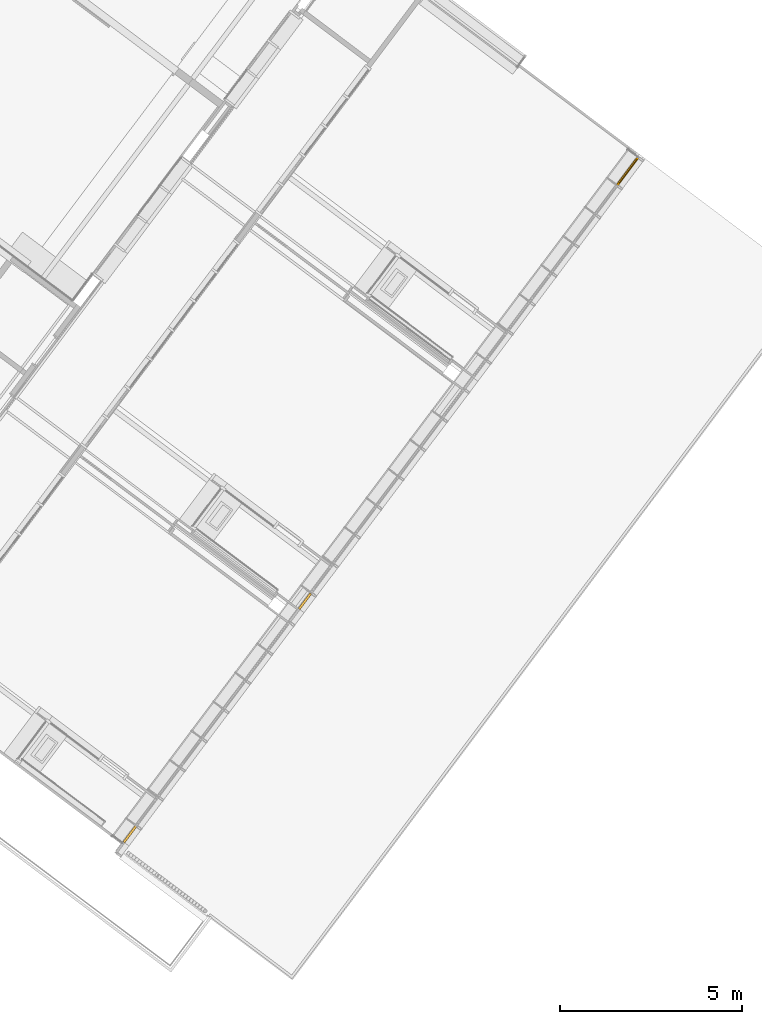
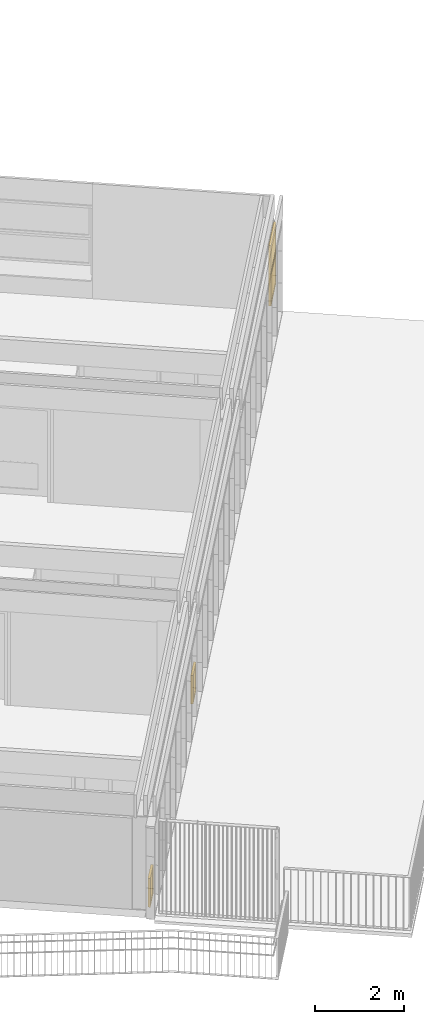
# One storey, part 241 of 243: 4 windows, 1 element without a shape of its own.
"""IFC2X3 building model written with IfcOpenShell, lengths in metres."""

from ifc_helpers import new_model, entity, si_unit, converted_unit, derived_unit, direction, frame, origin, place, context, subcontext, project, spatial, faceted_brep, source, transform, mapped, material, material_list, type_object, type_shapes, element, aggregate, save


model = new_model("IFC2X3")

# Units and contexts
model_context = context("Model", 3, precision=1e-05, world=origin(), true_north=direction((6.123031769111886e-17, 1.0)))
body_context = subcontext(model_context, "Body", "Model", "MODEL_VIEW")
ifc_project = project(units=[si_unit("LENGTHUNIT", "METRE"), si_unit("AREAUNIT", "SQUARE_METRE"), si_unit("VOLUMEUNIT", "CUBIC_METRE"), converted_unit("PLANEANGLEUNIT", "DEGREE", entity("IfcRatioMeasure", 0.017453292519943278), si_unit("PLANEANGLEUNIT", "RADIAN"), dimensions=[0, 0, 0, 0, 0, 0, 0]), si_unit("MASSUNIT", "GRAM", prefix="KILO"), derived_unit("MASSDENSITYUNIT", [(si_unit("MASSUNIT", "GRAM", prefix="KILO"), 1), (si_unit("LENGTHUNIT", "METRE"), -3)]), derived_unit("IONCONCENTRATIONUNIT", [(si_unit("MASSUNIT", "GRAM", prefix="KILO"), 1), (si_unit("LENGTHUNIT", "METRE"), -3)]), derived_unit("MOMENTOFINERTIAUNIT", [(si_unit("LENGTHUNIT", "METRE"), 4)]), si_unit("TIMEUNIT", "SECOND"), si_unit("FREQUENCYUNIT", "HERTZ"), si_unit("THERMODYNAMICTEMPERATUREUNIT", "DEGREE_CELSIUS"), derived_unit("THERMALTRANSMITTANCEUNIT", [(si_unit("MASSUNIT", "GRAM", prefix="KILO"), 1), (si_unit("THERMODYNAMICTEMPERATUREUNIT", "KELVIN"), -1), (si_unit("TIMEUNIT", "SECOND"), -3)]), derived_unit("THERMALCONDUCTANCEUNIT", [(si_unit("MASSUNIT", "GRAM", prefix="KILO"), 1), (si_unit("THERMODYNAMICTEMPERATUREUNIT", "KELVIN"), -1), (si_unit("TIMEUNIT", "SECOND"), -3), (si_unit("LENGTHUNIT", "METRE"), 1)]), derived_unit("VOLUMETRICFLOWRATEUNIT", [(si_unit("LENGTHUNIT", "METRE"), 3), (si_unit("TIMEUNIT", "SECOND"), -1)]), derived_unit("MASSFLOWRATEUNIT", [(si_unit("MASSUNIT", "GRAM", prefix="KILO"), 1), (si_unit("TIMEUNIT", "SECOND"), -1)]), derived_unit("ROTATIONALFREQUENCYUNIT", [(si_unit("TIMEUNIT", "SECOND"), -1)]), si_unit("ELECTRICCURRENTUNIT", "AMPERE"), si_unit("ELECTRICVOLTAGEUNIT", "VOLT"), si_unit("POWERUNIT", "WATT"), si_unit("FORCEUNIT", "NEWTON", prefix="KILO"), si_unit("ILLUMINANCEUNIT", "LUX"), si_unit("LUMINOUSFLUXUNIT", "LUMEN"), si_unit("LUMINOUSINTENSITYUNIT", "CANDELA"), derived_unit("USERDEFINED", [(si_unit("MASSUNIT", "GRAM", prefix="KILO"), -1), (si_unit("LENGTHUNIT", "METRE"), -2), (si_unit("TIMEUNIT", "SECOND"), 3), (si_unit("LUMINOUSFLUXUNIT", "LUMEN"), 1)]), derived_unit("USERDEFINED", [(si_unit("MASSUNIT", "GRAM", prefix="KILO"), 1), (si_unit("TIMEUNIT", "SECOND"), -3), (si_unit("LENGTHUNIT", "METRE"), 3), (si_unit("ELECTRICCURRENTUNIT", "AMPERE"), -2)]), derived_unit("SOUNDPOWERUNIT", [(si_unit("MASSUNIT", "GRAM", prefix="KILO"), 1), (si_unit("TIMEUNIT", "SECOND"), -3), (si_unit("LENGTHUNIT", "METRE"), 2)]), derived_unit("SOUNDPRESSUREUNIT", [(si_unit("MASSUNIT", "GRAM", prefix="KILO"), 1), (si_unit("LENGTHUNIT", "METRE"), -1), (si_unit("TIMEUNIT", "SECOND"), -2)]), derived_unit("LINEARVELOCITYUNIT", [(si_unit("LENGTHUNIT", "METRE"), 1), (si_unit("TIMEUNIT", "SECOND"), -1)]), si_unit("PRESSUREUNIT", "PASCAL"), derived_unit("USERDEFINED", [(si_unit("MASSUNIT", "GRAM", prefix="KILO"), 1), (si_unit("LENGTHUNIT", "METRE"), -2), (si_unit("TIMEUNIT", "SECOND"), -2)]), derived_unit("LINEARFORCEUNIT", [(si_unit("MASSUNIT", "GRAM", prefix="KILO"), 1), (si_unit("TIMEUNIT", "SECOND"), -2)]), derived_unit("PLANARFORCEUNIT", [(si_unit("MASSUNIT", "GRAM", prefix="KILO"), 1), (si_unit("LENGTHUNIT", "METRE"), -1), (si_unit("TIMEUNIT", "SECOND"), -2)]), derived_unit("SPECIFICHEATCAPACITYUNIT", [(si_unit("THERMODYNAMICTEMPERATUREUNIT", "KELVIN"), -1), (si_unit("LENGTHUNIT", "METRE"), 2), (si_unit("TIMEUNIT", "SECOND"), -2)]), derived_unit("HEATINGVALUEUNIT", [(si_unit("LENGTHUNIT", "METRE"), 2), (si_unit("TIMEUNIT", "SECOND"), -2)]), derived_unit("VAPORPERMEABILITYUNIT", [(si_unit("LENGTHUNIT", "METRE"), -1), (si_unit("TIMEUNIT", "SECOND"), 1)]), derived_unit("DYNAMICVISCOSITYUNIT", [(si_unit("MASSUNIT", "GRAM", prefix="KILO"), 1), (si_unit("TIMEUNIT", "SECOND"), -1), (si_unit("LENGTHUNIT", "METRE"), -1)]), derived_unit("THERMALEXPANSIONCOEFFICIENTUNIT", [(si_unit("THERMODYNAMICTEMPERATUREUNIT", "KELVIN"), -1)]), derived_unit("MODULUSOFELASTICITYUNIT", [(si_unit("MASSUNIT", "GRAM", prefix="KILO"), 1), (si_unit("LENGTHUNIT", "METRE"), -1), (si_unit("TIMEUNIT", "SECOND"), -2)]), derived_unit("ISOTHERMALMOISTURECAPACITYUNIT", [(si_unit("LENGTHUNIT", "METRE"), 3), (si_unit("MASSUNIT", "GRAM", prefix="KILO"), -1)]), derived_unit("MOISTUREDIFFUSIVITYUNIT", [(si_unit("TIMEUNIT", "SECOND"), -1), (si_unit("LENGTHUNIT", "METRE"), 2)])], contexts=[model_context])

# Site, building, storey
site_placement = place(None, frame((0.0, 0.0, 235.0), z_axis=(0.0, 0.0, 1.0), x_axis=(-0.7996477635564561, 0.6004693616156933, 0.0)))
site = spatial("IfcSite", under=ifc_project, at=site_placement, Name="Default", CompositionType="ELEMENT")
building_placement = place(site_placement, origin())
building = spatial("IfcBuilding", under=site, at=building_placement, CompositionType="ELEMENT")
storey_placement = place(building_placement, origin())
storey = spatial("IfcBuildingStorey", under=building, at=storey_placement, Name="P0- Escola", CompositionType="ELEMENT", Elevation=0.0)

# Curtain wall, windows
curtain_wall_type = type_object("IfcCurtainWallType", Name="Muro cortina:MC- EXT- MC2", PredefinedType="NOTDEFINED")
curtain_wall_placement = place(storey_placement, origin())
curtain_wall = element("IfcCurtainWall", 1, at=curtain_wall_placement, inside=storey, type_object=curtain_wall_type, Name="Muro cortina:MC- EXT- MC2", ObjectType="Muro cortina:MC- EXT- MC2")
ifc_material_1 = material(Name="_Vidre")
ifc_material_2 = material(Name="_Alumini- T1- Perfil")
ifc_material_list = material_list([ifc_material_1, ifc_material_2])
window_style_1 = type_object("IfcWindowStyle", Name="MC- Alu- Conjunt vidre fix- 62x60 cm:MC- Alu- Conjunt vidre fix- 62x60 cm", ConstructionType="NOTDEFINED", OperationType="NOTDEFINED", ParameterTakesPrecedence=False, Sizeable=False, material=ifc_material_list)
shared_shape_1 = source(origin(), body_context, "Body", "Brep", [
    faceted_brep([(0.22536055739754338, -0.007600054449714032, 0.048806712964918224), (0.22536055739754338, -0.03160022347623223, 0.048806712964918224), (-0.2253605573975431, -0.03160022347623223, 0.048806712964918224), (-0.2253605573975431, -0.007600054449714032, 0.048806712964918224), (0.22536055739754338, -0.007600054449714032, 0.7386999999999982), (-0.2253605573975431, -0.007600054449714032, 0.7386999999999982), (-0.2253605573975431, -0.03160022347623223, 0.7386999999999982), (0.22536055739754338, -0.03160022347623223, 0.7386999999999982)], [[[0, 1, 2, 3]], [[4, 0, 3, 5]], [[5, 3, 2, 6]], [[6, 2, 1, 7]], [[7, 1, 0, 4]], [[4, 5, 6, 7]]]),
    faceted_brep([(0.27416727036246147, -0.05999999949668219, 0.7876999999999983), (0.27416727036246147, -0.05999999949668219, 0.0), (0.27416727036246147, 0.0, 0.0), (0.27416727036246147, 0.0, 0.7876999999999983), (-0.27416727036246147, 0.0, 0.7876999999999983), (-0.27416727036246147, 0.0, 0.0), (0.21136045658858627, 0.0, 0.7248931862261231), (-0.21136045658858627, 0.0, 0.724893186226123), (-0.21136045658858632, 0.0, 0.06280681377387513), (0.21136045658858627, 0.0, 0.06280681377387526), (-0.27416727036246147, -0.05999999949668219, 0.0), (-0.27416727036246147, -0.05999999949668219, 0.7876999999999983), (-0.21136330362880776, -0.05999999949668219, 0.7248960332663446), (0.21136330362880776, -0.05999999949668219, 0.7248960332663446), (0.21136330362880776, -0.05999999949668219, 0.0628039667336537), (-0.21136330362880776, -0.05999999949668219, 0.0628039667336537), (0.21136330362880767, -0.03160022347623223, 0.7248960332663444), (0.21136330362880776, -0.03160022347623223, 0.0628039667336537), (-0.21136330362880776, -0.03160022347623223, 0.0628039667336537), (-0.21136330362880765, -0.03160022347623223, 0.7248960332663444), (-0.2253605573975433, -0.03160022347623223, 0.7388932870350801), (0.2253605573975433, -0.03160022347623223, 0.7388932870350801), (0.2253605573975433, -0.03160022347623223, 0.048806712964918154), (-0.2253605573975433, -0.03160022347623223, 0.04880671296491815), (0.2253605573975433, -0.007600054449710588, 0.7388932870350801), (0.2253605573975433, -0.007600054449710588, 0.04880671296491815), (-0.2253605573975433, -0.007600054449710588, 0.048806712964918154), (-0.2253605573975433, -0.007600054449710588, 0.7388932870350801), (-0.21136045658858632, -0.007600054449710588, 0.7248931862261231), (0.21136045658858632, -0.007600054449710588, 0.7248931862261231), (0.21136045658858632, -0.007600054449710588, 0.06280681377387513), (-0.21136045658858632, -0.007600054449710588, 0.06280681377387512)], [[[0, 1, 2, 3]], [[4, 3, 2, 5], [6, 7, 8, 9]], [[1, 10, 5, 2]], [[0, 11, 10, 1], [12, 13, 14, 15]], [[16, 17, 14, 13]], [[17, 18, 15, 14]], [[16, 19, 18, 17], [20, 21, 22, 23]], [[24, 25, 22, 21]], [[25, 26, 23, 22]], [[24, 27, 26, 25], [28, 29, 30, 31]], [[6, 9, 30, 29]], [[9, 8, 31, 30]], [[10, 11, 4, 5]], [[18, 19, 12, 15]], [[26, 27, 20, 23]], [[8, 7, 28, 31]], [[11, 0, 3, 4]], [[19, 16, 13, 12]], [[27, 24, 21, 20]], [[7, 6, 29, 28]]], outer=[[True], [True, False], [True], [True, False], [True], [True], [False, True], [True], [True], [True, False], [True], [True], [True], [True], [True], [True], [True], [True], [True], [True]]),
])
type_shapes(window_style_1, [shared_shape_1])
window_1_placement = place(curtain_wall_placement, frame((5.885147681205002, -18.701024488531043, 0.03230000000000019), z_axis=(0.0, 0.0, 1.0), x_axis=(0.0, 1.0, 0.0)))
window_1 = element("IfcWindow", 2, at=window_1_placement, type_object=window_style_1, material=ifc_material_list, Name="MC- Alu- Conjunt vidre fix- 62x60 cm:MC- Alu- Conjunt vidre fix- 62x60 cm", ObjectType="MC- Alu- Conjunt vidre fix- 62x60 cm:MC- Alu- Conjunt vidre fix- 62x60 cm", OverallHeight=0.7876999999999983, OverallWidth=0.5483345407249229, context=body_context, shape_type="MappedRepresentation", body=[
    mapped(shared_shape_1, transform((0.0, 0.0, 0.0), scale=1.0)),
])
window_style_2 = type_object("IfcWindowStyle", Name="MC- Alu- Conjunt vidre fix- 62x60 cm:MC- Alu- Conjunt vidre fix- 62x60 cm", ConstructionType="NOTDEFINED", OperationType="NOTDEFINED", ParameterTakesPrecedence=False, Sizeable=False, material=ifc_material_list)
shared_shape_2 = source(origin(), body_context, "Body", "Brep", [
    faceted_brep([(0.21869328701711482, -0.007600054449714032, 0.048806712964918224), (0.21869328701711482, -0.03160022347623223, 0.048806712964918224), (-0.21869328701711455, -0.03160022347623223, 0.048806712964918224), (-0.21869328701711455, -0.007600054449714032, 0.048806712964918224), (0.21869328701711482, -0.007600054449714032, 0.7386999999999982), (-0.21869328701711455, -0.007600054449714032, 0.7386999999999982), (-0.21869328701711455, -0.03160022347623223, 0.7386999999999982), (0.21869328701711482, -0.03160022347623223, 0.7386999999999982)], [[[0, 1, 2, 3]], [[4, 0, 3, 5]], [[5, 3, 2, 6]], [[6, 2, 1, 7]], [[7, 1, 0, 4]], [[4, 5, 6, 7]]]),
    faceted_brep([(0.2674999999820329, -0.05999999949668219, 0.7876999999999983), (0.2674999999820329, -0.05999999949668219, 0.0), (0.2674999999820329, 0.0, 0.0), (0.2674999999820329, 0.0, 0.7876999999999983), (-0.2674999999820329, 0.0, 0.7876999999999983), (-0.2674999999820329, 0.0, 0.0), (0.2046931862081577, 0.0, 0.7248931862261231), (-0.2046931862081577, 0.0, 0.724893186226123), (-0.20469318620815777, 0.0, 0.06280681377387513), (0.2046931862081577, 0.0, 0.06280681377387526), (-0.2674999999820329, -0.05999999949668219, 0.0), (-0.2674999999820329, -0.05999999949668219, 0.7876999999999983), (-0.2046960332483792, -0.05999999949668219, 0.7248960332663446), (0.2046960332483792, -0.05999999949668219, 0.7248960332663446), (0.2046960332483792, -0.05999999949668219, 0.0628039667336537), (-0.2046960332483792, -0.05999999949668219, 0.0628039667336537), (0.20469603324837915, -0.03160022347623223, 0.7248960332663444), (0.2046960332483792, -0.03160022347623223, 0.0628039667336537), (-0.2046960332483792, -0.03160022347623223, 0.06280396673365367), (-0.2046960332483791, -0.03160022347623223, 0.7248960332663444), (-0.21869328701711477, -0.03160022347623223, 0.7388932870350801), (0.21869328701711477, -0.03160022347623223, 0.7388932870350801), (0.21869328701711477, -0.03160022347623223, 0.048806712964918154), (-0.21869328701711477, -0.03160022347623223, 0.04880671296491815), (0.21869328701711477, -0.007600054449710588, 0.7388932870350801), (0.21869328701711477, -0.007600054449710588, 0.04880671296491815), (-0.21869328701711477, -0.007600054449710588, 0.048806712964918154), (-0.21869328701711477, -0.007600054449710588, 0.7388932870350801), (-0.20469318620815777, -0.007600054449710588, 0.7248931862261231), (0.20469318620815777, -0.007600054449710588, 0.7248931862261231), (0.20469318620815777, -0.007600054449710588, 0.06280681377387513), (-0.20469318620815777, -0.007600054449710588, 0.06280681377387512)], [[[0, 1, 2, 3]], [[4, 3, 2, 5], [6, 7, 8, 9]], [[1, 10, 5, 2]], [[0, 11, 10, 1], [12, 13, 14, 15]], [[16, 17, 14, 13]], [[17, 18, 15, 14]], [[16, 19, 18, 17], [20, 21, 22, 23]], [[24, 25, 22, 21]], [[25, 26, 23, 22]], [[24, 27, 26, 25], [28, 29, 30, 31]], [[6, 9, 30, 29]], [[9, 8, 31, 30]], [[10, 11, 4, 5]], [[18, 19, 12, 15]], [[26, 27, 20, 23]], [[8, 7, 28, 31]], [[11, 0, 3, 4]], [[19, 16, 13, 12]], [[27, 24, 21, 20]], [[7, 6, 29, 28]]], outer=[[True], [True, False], [True], [True, False], [True], [True], [False, True], [True], [True], [True, False], [True], [True], [True], [True], [True], [True], [True], [True], [True], [True]]),
])
type_shapes(window_style_2, [shared_shape_2])
window_2_placement = place(curtain_wall_placement, frame((5.885147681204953, -26.70769175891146, 0.03229999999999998), z_axis=(0.0, 0.0, 1.0), x_axis=(0.0, 1.0, 0.0)))
window_2 = element("IfcWindow", 3, at=window_2_placement, type_object=window_style_2, material=ifc_material_list, Name="MC- Alu- Conjunt vidre fix- 62x60 cm:MC- Alu- Conjunt vidre fix- 62x60 cm", ObjectType="MC- Alu- Conjunt vidre fix- 62x60 cm:MC- Alu- Conjunt vidre fix- 62x60 cm", OverallHeight=0.7876999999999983, OverallWidth=0.5349999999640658, context=body_context, shape_type="MappedRepresentation", body=[
    mapped(shared_shape_2, transform((0.0, 0.0, 0.0), scale=1.0)),
])
window_style_3 = type_object("IfcWindowStyle", Name="MC- Alu- Conjunt vidre fix- 62x60 cm:MC- Alu- Conjunt vidre fix- 62x60 cm", ConstructionType="NOTDEFINED", OperationType="NOTDEFINED", ParameterTakesPrecedence=False, Sizeable=False, material=ifc_material_list)
shared_shape_3 = source(origin(), body_context, "Body", "Brep", [
    faceted_brep([(0.41806738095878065, -0.007600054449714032, 0.048806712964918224), (0.41806738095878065, -0.03160022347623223, 0.048806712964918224), (-0.4180673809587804, -0.03160022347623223, 0.048806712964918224), (-0.4180673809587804, -0.007600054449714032, 0.048806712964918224), (0.41806738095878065, -0.007600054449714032, 0.8260000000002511), (-0.4180673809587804, -0.007600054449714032, 0.8260000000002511), (-0.4180673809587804, -0.03160022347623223, 0.8260000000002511), (0.41806738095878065, -0.03160022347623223, 0.8260000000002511)], [[[0, 1, 2, 3]], [[4, 0, 3, 5]], [[5, 3, 2, 6]], [[6, 2, 1, 7]], [[7, 1, 0, 4]], [[4, 5, 6, 7]]]),
    faceted_brep([(0.4668740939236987, -0.05999999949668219, 0.875000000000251), (0.4668740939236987, -0.05999999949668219, 0.0), (0.4668740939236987, 0.0, 0.0), (0.4668740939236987, 0.0, 0.875000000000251), (-0.4668740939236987, 0.0, 0.875000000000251), (-0.4668740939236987, 0.0, 0.0), (0.4040672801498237, 0.0, 0.8121931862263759), (-0.4040672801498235, 0.0, 0.8121931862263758), (-0.4040672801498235, 0.0, 0.06280681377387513), (0.4040672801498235, 0.0, 0.06280681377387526), (-0.4668740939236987, -0.05999999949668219, 0.0), (-0.4668740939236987, -0.05999999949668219, 0.875000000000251), (-0.40407012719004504, -0.05999999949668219, 0.8121960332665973), (0.40407012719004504, -0.05999999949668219, 0.8121960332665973), (0.40407012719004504, -0.05999999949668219, 0.0628039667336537), (-0.40407012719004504, -0.05999999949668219, 0.0628039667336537), (0.404070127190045, -0.03160022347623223, 0.8121960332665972), (0.40407012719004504, -0.03160022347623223, 0.0628039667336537), (-0.40407012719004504, -0.03160022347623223, 0.0628039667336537), (-0.40407012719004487, -0.03160022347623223, 0.8121960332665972), (-0.4180673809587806, -0.03160022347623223, 0.8261932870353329), (0.4180673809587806, -0.03160022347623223, 0.8261932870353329), (0.4180673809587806, -0.03160022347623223, 0.048806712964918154), (-0.4180673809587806, -0.03160022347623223, 0.04880671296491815), (0.4180673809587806, -0.007600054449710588, 0.8261932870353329), (0.4180673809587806, -0.007600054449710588, 0.04880671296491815), (-0.4180673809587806, -0.007600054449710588, 0.048806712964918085), (-0.4180673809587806, -0.007600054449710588, 0.8261932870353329), (-0.40406728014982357, -0.007600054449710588, 0.8121931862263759), (0.40406728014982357, -0.007600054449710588, 0.8121931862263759), (0.40406728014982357, -0.007600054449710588, 0.06280681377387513), (-0.40406728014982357, -0.007600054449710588, 0.06280681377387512)], [[[0, 1, 2, 3]], [[4, 3, 2, 5], [6, 7, 8, 9]], [[1, 10, 5, 2]], [[0, 11, 10, 1], [12, 13, 14, 15]], [[16, 17, 14, 13]], [[17, 18, 15, 14]], [[16, 19, 18, 17], [20, 21, 22, 23]], [[24, 25, 22, 21]], [[25, 26, 23, 22]], [[24, 27, 26, 25], [28, 29, 30, 31]], [[6, 9, 30, 29]], [[9, 8, 31, 30]], [[10, 11, 4, 5]], [[18, 19, 12, 15]], [[26, 27, 20, 23]], [[8, 7, 28, 31]], [[11, 0, 3, 4]], [[19, 16, 13, 12]], [[27, 24, 21, 20]], [[7, 6, 29, 28]]], outer=[[True], [True, False], [True], [True, False], [True], [True], [False, True], [True], [True], [True, False], [True], [True], [True], [True], [True], [True], [True], [True], [True], [True]]),
])
type_shapes(window_style_3, [shared_shape_3])
window_3_placement = place(curtain_wall_placement, frame((5.885147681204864, -41.47206585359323, 0.8199999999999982), z_axis=(0.0, 0.0, 1.0), x_axis=(0.0, 1.0, 0.0)))
window_3 = element("IfcWindow", 4, at=window_3_placement, type_object=window_style_3, material=ifc_material_list, Name="MC- Alu- Conjunt vidre fix- 62x60 cm:MC- Alu- Conjunt vidre fix- 62x60 cm", ObjectType="MC- Alu- Conjunt vidre fix- 62x60 cm:MC- Alu- Conjunt vidre fix- 62x60 cm", OverallHeight=0.875000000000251, OverallWidth=0.9337481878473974, context=body_context, shape_type="MappedRepresentation", body=[
    mapped(shared_shape_3, transform((0.0, 0.0, 0.0), scale=1.0)),
])
window_style_4 = type_object("IfcWindowStyle", Name="MC- Alu- Conjunt finestra basculant- 68x68 cm:MC- Alu- Conjunt finestra basculant- 68x68 cm", ConstructionType="NOTDEFINED", OperationType="NOTDEFINED", ParameterTakesPrecedence=False, Sizeable=False, material=ifc_material_list)
shared_shape_4 = source(origin(), body_context, "Body", "Brep", [
    faceted_brep([(0.41478580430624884, -0.035598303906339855, 0.051999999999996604), (-0.41478580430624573, -0.0355983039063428, 0.051999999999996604), (-0.4147858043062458, -0.0115981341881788, 0.051999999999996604), (0.41478580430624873, -0.011598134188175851, 0.051999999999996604), (0.41478580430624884, -0.035598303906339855, 0.7365527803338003), (0.41478580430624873, -0.011598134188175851, 0.7365527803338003), (-0.41478580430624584, -0.0115981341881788, 0.7365527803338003), (-0.41478580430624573, -0.0355983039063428, 0.7365527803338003)], [[[0, 1, 2, 3]], [[4, 0, 3, 5]], [[5, 3, 2, 6]], [[6, 2, 1, 7]], [[7, 1, 0, 4]], [[4, 5, 6, 7]]]),
    faceted_brep([(-0.39908498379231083, -0.009998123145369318, 0.7208519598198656), (-0.39908498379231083, -0.009998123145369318, 0.06789804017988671), (-0.39908498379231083, -0.007998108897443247, 0.06789804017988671), (-0.39908498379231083, -0.007998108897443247, 0.7208519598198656), (-0.4279830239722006, -0.007998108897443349, 0.7497499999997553), (0.42798302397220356, -0.007998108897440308, 0.7497499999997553), (0.42798302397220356, -0.007998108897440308, 0.03899999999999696), (-0.4279830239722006, -0.007998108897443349, 0.03899999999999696), (0.39908498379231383, -0.00799810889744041, 0.7208519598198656), (0.39908498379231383, -0.00799810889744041, 0.06789804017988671), (0.39908498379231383, -0.009998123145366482, 0.06789804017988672), (0.39908498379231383, -0.009998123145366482, 0.7208519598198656), (0.4147858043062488, -0.009998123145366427, 0.7365527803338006), (-0.4147858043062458, -0.009998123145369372, 0.7365527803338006), (-0.4147858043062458, -0.009998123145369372, 0.05219721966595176), (0.4147858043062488, -0.009998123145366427, 0.052197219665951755), (-0.4147858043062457, -0.040799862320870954, 0.7365527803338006), (-0.4147858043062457, -0.040799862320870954, 0.052197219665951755), (0.4147858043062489, -0.040799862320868, 0.05219721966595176), (0.4147858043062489, -0.04079986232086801, 0.7365527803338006), (0.39908498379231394, -0.04079986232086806, 0.7208519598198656), (-0.3990849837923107, -0.04079986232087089, 0.7208519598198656), (-0.3990849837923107, -0.04079986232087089, 0.06789804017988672), (0.39908498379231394, -0.04079986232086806, 0.06789804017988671), (-0.39908498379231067, -0.06800005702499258, 0.7208519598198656), (-0.39908498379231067, -0.06800005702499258, 0.06789804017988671), (0.3990849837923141, -0.06800005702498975, 0.06789804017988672), (0.39908498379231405, -0.06800005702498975, 0.7208519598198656), (0.4454869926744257, -0.06800005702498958, 0.7672539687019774), (-0.4454869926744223, -0.06800005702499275, 0.7672539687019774), (-0.4454869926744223, -0.06800005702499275, 0.021496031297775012), (0.4454869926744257, -0.06800005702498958, 0.021496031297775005), (-0.4454869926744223, -0.06450003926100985, 0.7672539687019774), (-0.44548699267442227, -0.06450003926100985, 0.021496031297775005), (0.4454869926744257, -0.06450003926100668, 0.021496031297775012), (0.4454869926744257, -0.06450003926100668, 0.7672539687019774), (0.4279830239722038, -0.06450003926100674, 0.7497499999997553), (-0.4279830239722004, -0.06450003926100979, 0.7497499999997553), (-0.4279830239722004, -0.06450003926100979, 0.03899999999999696), (0.4279830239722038, -0.06450003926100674, 0.038999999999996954)], [[[0, 1, 2, 3]], [[4, 5, 6, 7], [8, 3, 2, 9]], [[1, 10, 9, 2]], [[0, 11, 10, 1], [12, 13, 14, 15]], [[16, 17, 14, 13]], [[17, 18, 15, 14]], [[16, 19, 18, 17], [20, 21, 22, 23]], [[24, 25, 22, 21]], [[25, 26, 23, 22]], [[24, 27, 26, 25], [28, 29, 30, 31]], [[32, 33, 30, 29]], [[33, 34, 31, 30]], [[32, 35, 34, 33], [36, 37, 38, 39]], [[4, 7, 38, 37]], [[7, 6, 39, 38]], [[10, 11, 8, 9]], [[18, 19, 12, 15]], [[26, 27, 20, 23]], [[34, 35, 28, 31]], [[6, 5, 36, 39]], [[11, 0, 3, 8]], [[19, 16, 13, 12]], [[27, 24, 21, 20]], [[35, 32, 29, 28]], [[5, 4, 37, 36]]], outer=[[True], [True, False], [True], [False, True], [True], [True], [True, False], [True], [True], [False, True], [True], [True], [True, False], [True], [True], [True], [True], [True], [True], [True], [True], [True], [True], [True], [True]]),
    faceted_brep([(0.40406727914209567, 0.0, 0.725943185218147), (0.40406727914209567, 0.0, 0.06280681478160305), (0.40406727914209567, -0.0040000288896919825, 0.06280681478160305), (0.40406727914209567, -0.0040000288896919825, 0.725943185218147), (-0.40406727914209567, -0.0040000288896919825, 0.725943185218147), (-0.40406727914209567, -0.0040000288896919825, 0.06280681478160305), (0.4394738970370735, -0.0040000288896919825, 0.7613498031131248), (-0.4394738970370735, -0.0040000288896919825, 0.7613498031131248), (-0.4394738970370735, -0.0040000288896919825, 0.027400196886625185), (0.4394738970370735, -0.0040000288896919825, 0.02740019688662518), (-0.40406727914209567, 0.0, 0.06280681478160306), (-0.40406727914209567, 0.0, 0.725943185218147), (-0.4668740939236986, 0.0, 0.7887499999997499), (0.4668740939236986, 0.0, 0.7887499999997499), (0.4668740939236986, 0.0, 0.0), (-0.4668740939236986, 0.0, 0.0), (0.4668740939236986, -0.05999999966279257, 0.7887499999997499), (0.4668740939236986, -0.05999999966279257, 0.0), (-0.4668740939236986, -0.05999999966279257, 0.0), (-0.4668740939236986, -0.05999999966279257, 0.7887499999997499), (-0.4394738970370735, -0.05999999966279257, 0.7613498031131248), (0.4394738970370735, -0.05999999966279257, 0.7613498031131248), (0.4394738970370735, -0.05999999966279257, 0.027400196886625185), (-0.4394738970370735, -0.05999999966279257, 0.02740019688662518)], [[[0, 1, 2, 3]], [[4, 3, 2, 5], [6, 7, 8, 9]], [[1, 10, 5, 2]], [[0, 11, 10, 1], [12, 13, 14, 15]], [[16, 17, 14, 13]], [[17, 18, 15, 14]], [[16, 19, 18, 17], [20, 21, 22, 23]], [[6, 9, 22, 21]], [[9, 8, 23, 22]], [[10, 11, 4, 5]], [[18, 19, 12, 15]], [[8, 7, 20, 23]], [[11, 0, 3, 4]], [[19, 16, 13, 12]], [[7, 6, 21, 20]]], outer=[[True], [False, True], [True], [False, True], [True], [True], [True, False], [True], [True], [True], [True], [True], [True], [True], [True]]),
])
type_shapes(window_style_4, [shared_shape_4])
window_4_placement = place(curtain_wall_placement, frame((5.885147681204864, -41.47206585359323, 1.6950000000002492), z_axis=(0.0, 0.0, 1.0), x_axis=(0.0, 1.0, 0.0)))
window_4 = element("IfcWindow", 5, at=window_4_placement, type_object=window_style_4, material=ifc_material_list, Name="MC- Alu- Conjunt finestra basculant- 68x68 cm:MC- Alu- Conjunt finestra basculant- 68x68 cm", ObjectType="MC- Alu- Conjunt finestra basculant- 68x68 cm:MC- Alu- Conjunt finestra basculant- 68x68 cm", OverallHeight=0.7887499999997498, OverallWidth=0.9337481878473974, context=body_context, shape_type="MappedRepresentation", body=[
    mapped(shared_shape_4, transform((0.0, 0.0, 0.0), scale=1.0)),
])
aggregate(curtain_wall, [window_1, window_2, window_3, window_4])

save(model, "model.ifc")
